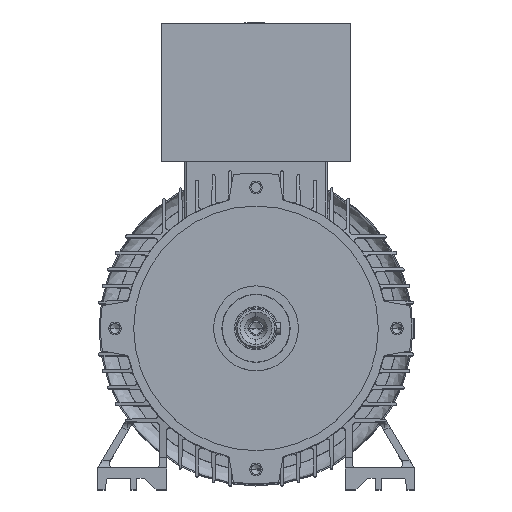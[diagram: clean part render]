
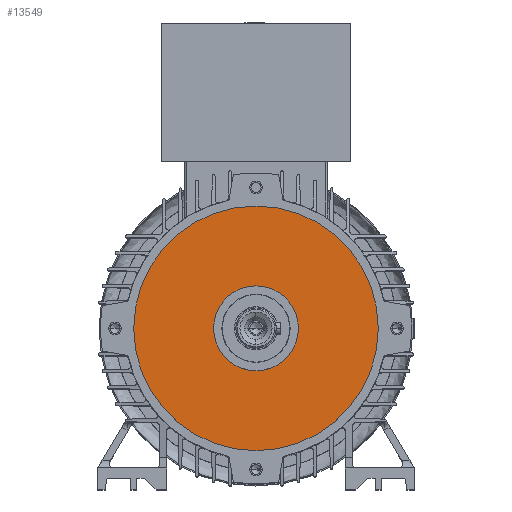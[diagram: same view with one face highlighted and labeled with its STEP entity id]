
A CAD part, top view. The second image highlights one B-rep face of the part: STEP entity #13549.
In plain terms, the highlighted planar face has unit normal (0, 0, 1).
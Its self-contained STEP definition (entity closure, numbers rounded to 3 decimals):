
#616 = CARTESIAN_POINT ( 'NONE',  ( -29.5, 0., 125. ) ) ;
#1074 = DIRECTION ( 'NONE',  ( 1., 0., 0. ) ) ;
#1468 = AXIS2_PLACEMENT_3D ( 'NONE', #7768, #10625, #10747 ) ;
#1987 = DIRECTION ( 'NONE',  ( 0., 0., -1. ) ) ;
#2013 = CARTESIAN_POINT ( 'NONE',  ( 85., 0., 125. ) ) ;
#2069 = DIRECTION ( 'NONE',  ( 1., 0., 0. ) ) ;
#2093 = VERTEX_POINT ( 'NONE', #616 ) ;
#4726 = EDGE_CURVE ( 'NONE', #2093, #31070, #15569, .T. ) ;
#6053 = FACE_OUTER_BOUND ( 'NONE', #13328, .T. ) ;
#6807 = AXIS2_PLACEMENT_3D ( 'NONE', #18497, #15514, #1074 ) ;
#7281 = CARTESIAN_POINT ( 'NONE',  ( 29.5, 0., 125. ) ) ;
#7579 = CARTESIAN_POINT ( 'NONE',  ( 0., 0., 125. ) ) ;
#7768 = CARTESIAN_POINT ( 'NONE',  ( 0., 0., 125. ) ) ;
#8443 = AXIS2_PLACEMENT_3D ( 'NONE', #34324, #17457, #25363 ) ;
#10625 = DIRECTION ( 'NONE',  ( 0., 0., -1. ) ) ;
#10747 = DIRECTION ( 'NONE',  ( 1., 0., 0. ) ) ;
#12807 = DIRECTION ( 'NONE',  ( 0., 0., 1. ) ) ;
#13328 = EDGE_LOOP ( 'NONE', ( #23585, #13944 ) ) ;
#13549 = ADVANCED_FACE ( 'NONE', ( #14927, #6053 ), #33153, .F. ) ;
#13850 = AXIS2_PLACEMENT_3D ( 'NONE', #7579, #12807, #2069 ) ;
#13944 = ORIENTED_EDGE ( 'NONE', *, *, #28275, .F. ) ;
#14497 = EDGE_LOOP ( 'NONE', ( #14529, #23586 ) ) ;
#14529 = ORIENTED_EDGE ( 'NONE', *, *, #26911, .F. ) ;
#14927 = FACE_BOUND ( 'NONE', #14497, .T. ) ;
#15514 = DIRECTION ( 'NONE',  ( 0., 0., -1. ) ) ;
#15569 = CIRCLE ( 'NONE', #13850, 29.5 ) ;
#16055 = CARTESIAN_POINT ( 'NONE',  ( 0., 29.5, 125. ) ) ;
#16415 = DIRECTION ( 'NONE',  ( -1., 0., 0. ) ) ;
#17457 = DIRECTION ( 'NONE',  ( 0., 0., 1. ) ) ;
#18092 = CARTESIAN_POINT ( 'NONE',  ( -85., 0., 125. ) ) ;
#18497 = CARTESIAN_POINT ( 'NONE',  ( 0., 0., 125. ) ) ;
#20019 = CIRCLE ( 'NONE', #1468, 85. ) ;
#21139 = CIRCLE ( 'NONE', #6807, 85. ) ;
#23585 = ORIENTED_EDGE ( 'NONE', *, *, #30060, .F. ) ;
#23586 = ORIENTED_EDGE ( 'NONE', *, *, #4726, .F. ) ;
#25363 = DIRECTION ( 'NONE',  ( 1., 0., 0. ) ) ;
#26307 = CIRCLE ( 'NONE', #8443, 29.5 ) ;
#26911 = EDGE_CURVE ( 'NONE', #31070, #2093, #26307, .T. ) ;
#28275 = EDGE_CURVE ( 'NONE', #32382, #36032, #21139, .T. ) ;
#30060 = EDGE_CURVE ( 'NONE', #36032, #32382, #20019, .T. ) ;
#31070 = VERTEX_POINT ( 'NONE', #7281 ) ;
#32382 = VERTEX_POINT ( 'NONE', #18092 ) ;
#33153 = PLANE ( 'NONE',  #36348 ) ;
#34324 = CARTESIAN_POINT ( 'NONE',  ( 0., 0., 125. ) ) ;
#36032 = VERTEX_POINT ( 'NONE', #2013 ) ;
#36348 = AXIS2_PLACEMENT_3D ( 'NONE', #16055, #1987, #16415 ) ;
